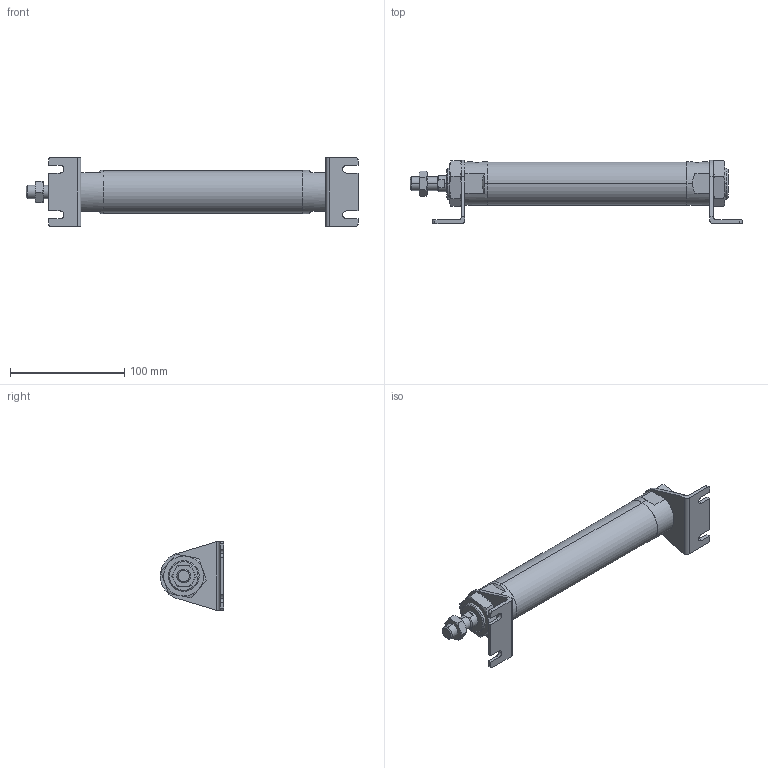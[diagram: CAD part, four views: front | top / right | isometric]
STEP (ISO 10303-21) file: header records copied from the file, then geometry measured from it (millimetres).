
FILE_DESCRIPTION (( 'STEP AP203' ), '1' );
FILE_NAME ('J#2-32-125-L.STEP', '2016-03-10T01:00:25', ( '' ), ( '' ), 'SwSTEP 2.0', 'SolidWorks 2014', '' );
FILE_SCHEMA (( 'CONFIG_CONTROL_DESIGN' ));
Length unit declared in the file: millimetre
Products named in the file (5): J#2-32-L; J#2-32-125; J#2-32-125-L
Assembly tree (6 placements, depth 2):
  J#2-32-125-L
    J#2-32-125
    (unnamed)
    (unnamed)  x2
    J#2-32-L  x2
Bounding box: 290.2 x 55.5 x 60 mm (x, y, z)
Volume: 290274 mm3; surface area: 55054.4 mm2
Topology: 6 solids, 6 shells, 170 faces, 404 edges, 249 vertices
Faces by surface type: plane 71, cylinder 48, torus 36, cone 15
Entity records: 4479 total; most frequent: CARTESIAN_POINT 1189, DIRECTION 578, ORIENTED_EDGE 558, EDGE_CURVE 279, AXIS2_PLACEMENT_3D 232, VERTEX_POINT 173, EDGE_LOOP 134, ADVANCED_FACE 121
